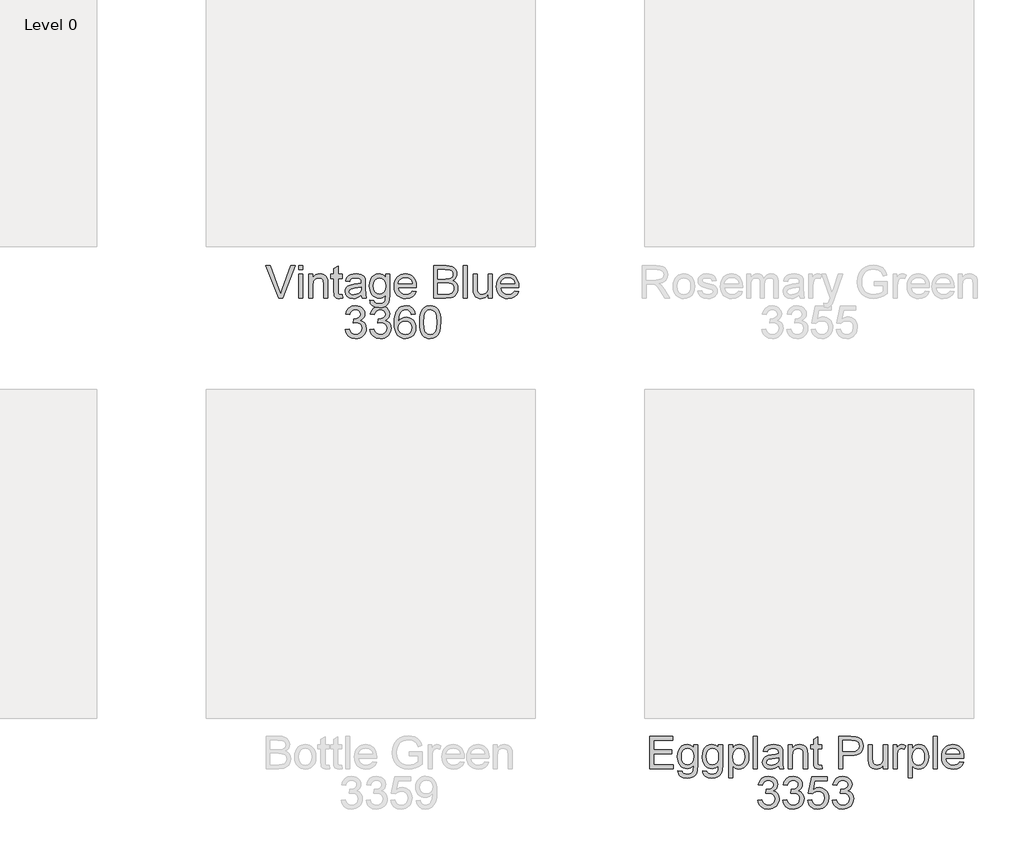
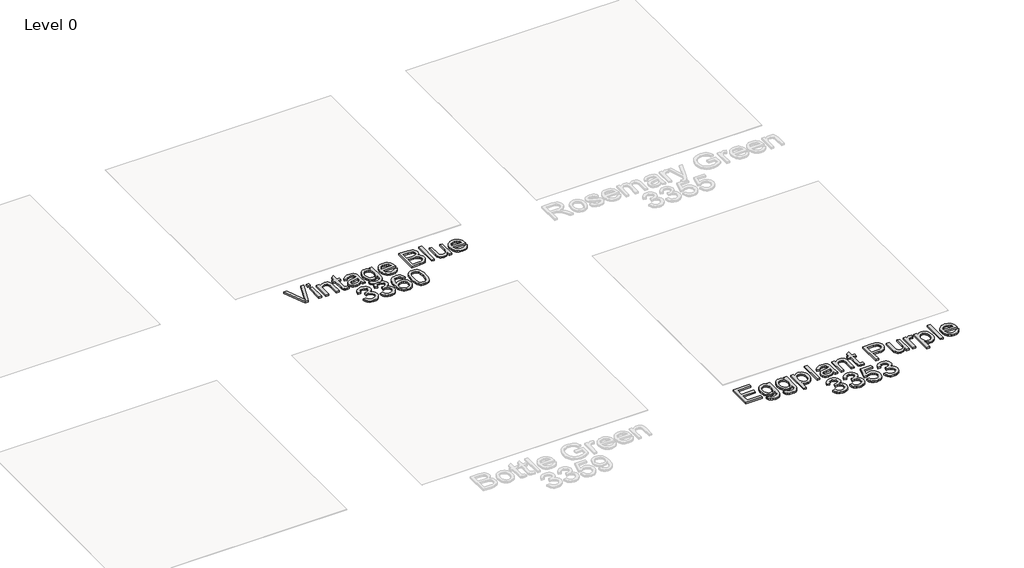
# One storey, part 4 of 6: 2 proxies.
"""IFC4 building model written with IfcOpenShell, lengths in millimetres."""

from ifc_helpers import new_model, si_unit, origin, origin_with_axes, place, context, project, spatial, polyline, outline, extrude, element, save

model = new_model("IFC4")

# Units and contexts
model_context = context("Model", 3, world=origin())
ifc_project = project(units=[si_unit("LENGTHUNIT", "METRE", prefix="MILLI")], contexts=[model_context])

# Site, building, storey
site = spatial("IfcSite", under=ifc_project)
building = spatial("IfcBuilding", under=site)
storey = spatial("IfcBuildingStorey", under=building, Name="Level 0", Elevation=0.0)

# Proxies
placement = place(None, origin())
element("IfcBuildingElementProxy", 1, Name="300mm Arial", ObjectType="300mm Arial", at=placement, inside=storey, context=model_context, shape_type="SweptSolid", body=[
    extrude(outline(polyline([(3208.7612736, -2137.1730179), (3091.2131967, -1841.7884025), (3130.7324275, -1841.7884025), (3209.4103121, -2054.6009025), (3225.3478121, -2102.5576332), (3241.068966, -2054.6009025), (3319.9631967, -1841.7884025), (3359.4824275, -1841.7884025), (3246.9103121, -2137.1730179), (3208.7612736, -2137.1730179)])), origin_with_axes(), (0.0, 0.0, 1.0), 20.0),
    extrude(outline(polyline([(3389.193966, -1878.7114794), (3389.193966, -1841.7884025), (3426.1170429, -1841.7884025), (3426.1170429, -1878.7114794), (3389.193966, -1878.7114794)])), origin_with_axes(), (0.0, 0.0, 1.0), 20.0),
    extrude(outline(polyline([(3389.193966, -2137.1730179), (3389.193966, -1920.2499409), (3426.1170429, -1920.2499409), (3426.1170429, -2137.1730179), (3389.193966, -2137.1730179)])), origin_with_axes(), (0.0, 0.0, 1.0), 20.0),
    extrude(outline(polyline([(3481.5016583, -2137.1730179), (3481.5016583, -1920.2499409), (3518.4247352, -1920.2499409), (3518.4247352, -1950.5384025), (3531.2522592, -1935.2679698), (3546.6579083, -1924.3605179), (3564.6416823, -1917.8160467), (3585.2035813, -1915.6345563), (3603.4037015, -1917.3923688), (3620.0713698, -1922.6658063), (3633.9716102, -1930.7968159), (3643.8694467, -1941.1273448), (3654.9391583, -1968.2787871), (3656.8862736, -2003.9759025), (3656.8862736, -2137.1730179), (3619.9631967, -2137.1730179), (3619.9631967, -2008.951864), (3615.708389, -1976.2835948), (3609.8219708, -1966.5570323), (3600.6723313, -1959.0119602), (3588.9445669, -1954.171215), (3575.3237736, -1952.5576332), (3553.6981727, -1956.1814313), (3535.2636775, -1967.0528255), (3527.8966402, -1975.9275251), (3522.6344708, -1988.0564313), (3518.4247352, -2022.076864), (3518.4247352, -2137.1730179), (3481.5016583, -2137.1730179)])), origin_with_axes(), (0.0, 0.0, 1.0), 20.0),
    extrude(outline(polyline([(3786.1170429, -2106.3797486), (3790.7324275, -2138.2547486), (3763.1122352, -2141.7884025), (3745.3898794, -2140.2559505), (3732.1747352, -2135.6585948), (3722.8357929, -2128.5732582), (3716.7420429, -2119.576864), (3713.3886775, -2104.1261429), (3712.270889, -2077.6778255), (3712.270889, -1957.1730179), (3684.5785813, -1957.1730179), (3684.5785813, -1920.2499409), (3712.270889, -1920.2499409), (3712.270889, -1867.5335948), (3749.193966, -1845.826864), (3749.193966, -1920.2499409), (3786.1170429, -1920.2499409), (3786.1170429, -1957.1730179), (3749.193966, -1957.1730179), (3749.193966, -2076.5960948), (3751.1410813, -2095.6345563), (3757.4511775, -2102.3773448), (3770.0353121, -2104.8653255), (3786.1170429, -2106.3797486)])), origin_with_axes(), (0.0, 0.0, 1.0), 20.0),
    extrude(outline(polyline([(3961.5016583, -2109.4807102), (3943.8604323, -2124.6069121), (3925.6963698, -2134.5047486), (3906.5948073, -2139.967489), (3886.1410813, -2141.7884025), (3855.2847111, -2137.4073929), (3832.5232929, -2124.264364), (3818.4878361, -2104.3064313), (3813.8093506, -2079.4807102), (3815.5761775, -2064.1742198), (3820.8766583, -2050.2739794), (3829.05274, -2038.3749409), (3839.4463698, -2029.0720563), (3865.2997352, -2016.9566717), (3897.2468506, -2011.4037871), (3934.9992544, -2005.5624409), (3961.2853121, -1998.7114794), (3961.5016583, -1990.4903255), (3958.959591, -1974.0119602), (3951.333389, -1963.2307102), (3934.2781006, -1955.2259025), (3910.5160813, -1952.5576332), (3888.520889, -1954.3334746), (3873.1603121, -1959.6609986), (3862.6855525, -1969.513763), (3855.3478121, -1984.8653255), (3818.4247352, -1980.2499409), (3824.83399, -1960.0576332), (3834.3982929, -1944.1922486), (3848.0100717, -1932.0588352), (3866.5617544, -1923.0624409), (3889.2510573, -1917.4915275), (3915.2756967, -1915.6345563), (3940.2366342, -1917.2751813), (3960.0232929, -1922.1970563), (3974.9421631, -1929.5978977), (3985.2997352, -1938.6754217), (3992.1687256, -1949.8983784), (3996.6218506, -1963.7355179), (3998.4247352, -1996.0432102), (3998.4247352, -2041.9807102), (4000.2997352, -2106.1273448), (4007.6555044, -2137.1730179), (3970.7324275, -2137.1730179), (3961.5016583, -2109.4807102)]), holes=[polyline([(3961.5016583, -2035.6345563), (3901.9343506, -2046.9566717), (3870.1675236, -2052.9422486), (3855.7805044, -2062.6778255), (3850.7324275, -2076.8845563), (3853.4818265, -2087.8641236), (3861.7300236, -2096.8605179), (3875.2967304, -2102.8641236), (3894.0016583, -2104.8653255), (3913.833389, -2102.6567919), (3931.3574275, -2096.0311909), (3945.5641583, -2086.2685707), (3955.443966, -2074.6489794), (3959.8249756, -2062.6778255), (3961.2853121, -2046.0912871), (3961.5016583, -2035.6345563)])]), origin_with_axes(), (0.0, 0.0, 1.0), 20.0),
    extrude(outline(polyline([(4039.9631967, -2155.6345563), (4076.8862736, -2160.2499409), (4080.9607929, -2171.7884025), (4088.8574275, -2179.7210948), (4104.380264, -2185.8869602), (4124.6987736, -2187.9422486), (4146.3694467, -2185.6165275), (4162.4872352, -2178.639364), (4173.6651198, -2167.4614794), (4180.5160813, -2152.5335948), (4183.0401198, -2109.4807102), (4170.7534611, -2121.5960948), (4157.0425236, -2130.2499409), (4141.9073073, -2135.4422486), (4125.3478121, -2137.1730179), (4105.1036715, -2135.1582943), (4087.2799035, -2129.1141236), (4071.876508, -2119.0405058), (4058.8934852, -2104.9374409), (4048.5922532, -2088.0173688), (4041.2342304, -2069.4927294), (4035.3478121, -2027.6297486), (4037.9890381, -1997.8190515), (4045.912716, -1970.4061909), (4058.8393986, -1947.1760227), (4076.489639, -1929.9134025), (4098.2594708, -1919.2042679), (4123.5449275, -1915.6345563), (4140.8120549, -1917.6537871), (4156.4836294, -1923.7114794), (4170.5596511, -1933.8076332), (4183.0401198, -1947.9422486), (4183.0401198, -1920.2499409), (4219.9631967, -1920.2499409), (4219.9631967, -2107.5335948), (4217.4391583, -2150.7757823), (4209.8670429, -2179.2523448), (4196.8231727, -2198.1375611), (4177.8838698, -2212.6057102), (4153.4637977, -2221.8004217), (4123.9776198, -2224.8653255), (4089.6236535, -2220.5474169), (4062.5713698, -2207.5936909), (4052.3828181, -2197.869382), (4045.2186054, -2185.96809), (4041.0787316, -2171.8898147), (4039.9631967, -2155.6345563)]), holes=[polyline([(4072.270889, -2025.1057102), (4076.2101919, -2058.9728977), (4088.0281006, -2082.2571525), (4105.7955285, -2095.7517438), (4127.583389, -2100.2499409), (4149.20899, -2095.7787871), (4167.0665621, -2082.3653255), (4179.0467304, -2059.3785467), (4183.0401198, -2026.1874409), (4178.9295429, -1994.1772246), (4166.5978121, -1971.1273448), (4148.4788217, -1957.2000611), (4127.006466, -1952.5576332), (4105.9217304, -1957.1279457), (4088.2444467, -1970.8388832), (4076.2642785, -1993.546215), (4072.270889, -2025.1057102)])]), origin_with_axes(), (0.0, 0.0, 1.0), 20.0),
    extrude(outline(polyline([(4427.2228121, -2072.5576332), (4463.4247352, -2077.1730179), (4450.380865, -2104.4506621), (4429.5665621, -2124.8412871), (4401.4505765, -2137.5516236), (4366.5016583, -2141.7884025), (4343.591502, -2139.9607282), (4323.178341, -2134.4777054), (4305.2621751, -2125.339334), (4289.8430044, -2112.545614), (4277.4436655, -2096.4526152), (4268.5869948, -2077.4164073), (4263.2729924, -2055.4369902), (4261.5016583, -2030.514364), (4263.2910212, -2004.7466356), (4268.6591102, -1982.0347967), (4277.6059251, -1962.3788472), (4290.131466, -1945.7787871), (4305.5100717, -1932.5906861), (4323.0160813, -1923.170614), (4342.6494948, -1917.5185707), (4364.4103121, -1915.6345563), (4385.470258, -1917.5140635), (4404.5154804, -1923.1525852), (4421.5459792, -1932.5501212), (4436.5617544, -1945.7066717), (4448.8191162, -1962.2706741), (4457.5743746, -1981.8905659), (4462.8275297, -2004.5663472), (4464.5785813, -2030.2980179), (4464.3622352, -2040.2499409), (4298.4247352, -2040.2499409), (4304.8159611, -2067.8881621), (4319.662716, -2088.2066717), (4341.0899996, -2100.7006621), (4367.2228121, -2104.8653255), (4386.8742544, -2102.936239), (4403.4247352, -2097.1489794), (4416.8742544, -2087.1429698), (4427.2228121, -2072.5576332)]), holes=[polyline([(4298.4247352, -2003.326864), (4427.6555044, -2003.326864), (4422.661514, -1983.8196525), (4412.8718506, -1969.8653255), (4391.3454083, -1956.8845563), (4364.2660813, -1952.5576332), (4339.3772592, -1956.0101573), (4318.7973313, -1966.3677294), (4304.4914419, -1982.5125611), (4298.4247352, -2003.326864)])]), origin_with_axes(), (0.0, 0.0, 1.0), 20.0),
    extrude(outline(polyline([(4621.5016583, -2137.1730179), (4621.5016583, -1841.7884025), (4734.2180044, -1841.7884025), (4765.2186054, -1843.9608784), (4789.4223313, -1850.4783063), (4807.974014, -1861.5029457), (4822.0184852, -1877.1970563), (4830.8616342, -1895.6585948), (4833.8093506, -1914.9855179), (4831.3303842, -1932.7709746), (4823.8934852, -1949.4927294), (4811.4445669, -1964.123138), (4793.9295429, -1975.6345563), (4814.8520188, -1986.5600371), (4830.3117544, -2003.1826332), (4839.8580285, -2024.4025852), (4843.0401198, -2049.1201332), (4840.8676438, -2069.71809), (4834.350216, -2088.8196525), (4824.6236535, -2105.0636429), (4812.8237736, -2117.0888832), (4798.3736535, -2125.7968159), (4780.6963698, -2132.0888832), (4733.3526198, -2137.1730179), (4621.5016583, -2137.1730179)]), holes=[polyline([(4658.4247352, -1961.7884025), (4725.8526198, -1961.7884025), (4765.2276198, -1958.6153255), (4779.0106727, -1953.1435707), (4788.9175236, -1944.9494602), (4794.8940861, -1934.1591957), (4796.8862736, -1920.8989794), (4795.0293025, -1908.0263832), (4789.458389, -1896.8124409), (4780.4259371, -1888.0594361), (4768.1843506, -1882.5696525), (4720.7324275, -1878.7114794), (4658.4247352, -1878.7114794), (4658.4247352, -1961.7884025)]), polyline([(4658.4247352, -2100.2499409), (4734.145889, -2100.2499409), (4761.5497352, -2098.8076332), (4784.7348313, -2090.7667679), (4800.0954083, -2074.3605179), (4804.6116342, -2062.7679698), (4806.1170429, -2049.4807102), (4804.350216, -2034.0480179), (4799.0497352, -2020.7787871), (4789.7919227, -2010.4031861), (4776.1531006, -2003.6513832), (4756.8351919, -1999.9464554), (4730.5401198, -1998.7114794), (4658.4247352, -1998.7114794), (4658.4247352, -2100.2499409)])]), origin_with_axes(), (0.0, 0.0, 1.0), 20.0),
    extrude(outline(polyline([(4889.193966, -2137.1730179), (4889.193966, -1841.7884025), (4926.1170429, -1841.7884025), (4926.1170429, -2137.1730179), (4889.193966, -2137.1730179)])), origin_with_axes(), (0.0, 0.0, 1.0), 20.0),
    extrude(outline(polyline([(5119.9631967, -2137.1730179), (5119.9631967, -2099.889364), (5106.6038217, -2118.2201933), (5091.0449275, -2131.3136429), (5073.286514, -2139.1697126), (5053.3285813, -2141.7884025), (5035.3448073, -2139.9494602), (5018.6050236, -2134.4326332), (5004.5605525, -2126.139364), (4994.662716, -2115.9710948), (4983.6651198, -2088.7835948), (4981.5016583, -2054.4566717), (4981.5016583, -1920.2499409), (5018.4247352, -1920.2499409), (5018.4247352, -2037.076864), (5020.6603121, -2074.7210948), (5026.0419227, -2087.2781861), (5035.2636775, -2096.8244602), (5047.7125958, -2102.8551092), (5062.7756967, -2104.8653255), (5078.7041823, -2102.8100371), (5093.6050236, -2096.6441717), (5105.8916823, -2086.935638), (5113.9776198, -2074.2523448), (5118.4668025, -2056.8815515), (5119.9631967, -2033.1105179), (5119.9631967, -1920.2499409), (5156.8862736, -1920.2499409), (5156.8862736, -2137.1730179), (5119.9631967, -2137.1730179)])), origin_with_axes(), (0.0, 0.0, 1.0), 20.0),
    extrude(outline(polyline([(5359.5305044, -2072.5576332), (5395.7324275, -2077.1730179), (5382.6885573, -2104.4506621), (5361.8742544, -2124.8412871), (5333.7582688, -2137.5516236), (5298.8093506, -2141.7884025), (5275.8991943, -2139.9607282), (5255.4860333, -2134.4777054), (5237.5698674, -2125.339334), (5222.1506967, -2112.545614), (5209.7513578, -2096.4526152), (5200.8946871, -2077.4164073), (5195.5806847, -2055.4369902), (5193.8093506, -2030.514364), (5195.5987136, -2004.7466356), (5200.9668025, -1982.0347967), (5209.9136174, -1962.3788472), (5222.4391583, -1945.7787871), (5237.817764, -1932.5906861), (5255.3237736, -1923.170614), (5274.9571871, -1917.5185707), (5296.7180044, -1915.6345563), (5317.7779503, -1917.5140635), (5336.8231727, -1923.1525852), (5353.8536715, -1932.5501212), (5368.8694467, -1945.7066717), (5381.1268085, -1962.2706741), (5389.8820669, -1981.8905659), (5395.135222, -2004.5663472), (5396.8862736, -2030.2980179), (5396.6699275, -2040.2499409), (5230.7324275, -2040.2499409), (5237.1236535, -2067.8881621), (5251.9704083, -2088.2066717), (5273.3976919, -2100.7006621), (5299.5305044, -2104.8653255), (5319.1819467, -2102.936239), (5335.7324275, -2097.1489794), (5349.1819467, -2087.1429698), (5359.5305044, -2072.5576332)]), holes=[polyline([(5230.7324275, -2003.326864), (5359.9631967, -2003.326864), (5354.9692063, -1983.8196525), (5345.1795429, -1969.8653255), (5323.6531006, -1956.8845563), (5296.5737736, -1952.5576332), (5271.6849515, -1956.0101573), (5251.1050236, -1966.3677294), (5236.7991342, -1982.5125611), (5230.7324275, -2003.326864)])]), origin_with_axes(), (0.0, 0.0, 1.0), 20.0),
    extrude(outline(polyline([(3813.8093506, -2423.326864), (3850.7324275, -2418.7114794), (3858.9986535, -2441.9146044), (3871.1050236, -2457.5816717), (3887.64649, -2466.5059505), (3909.2180044, -2469.4807102), (3934.5305044, -2465.3881621), (3954.0737736, -2453.1105179), (3966.567764, -2434.7932102), (3970.7324275, -2412.5816717), (3966.6038217, -2391.4969361), (3954.2180044, -2374.3965755), (3935.4680044, -2363.0654457), (3912.2468506, -2359.2884025), (3886.3574275, -2363.326864), (3890.4680044, -2326.4037871), (3896.381466, -2326.8364794), (3918.5028602, -2324.186239), (3938.2805044, -2316.2355179), (3952.2348313, -2302.7859986), (3956.8862736, -2283.639364), (3953.5148794, -2267.6928496), (3943.4006967, -2254.7571525), (3927.9680044, -2246.1844361), (3908.6410813, -2243.326864), (3889.2781006, -2246.2114794), (3873.4487736, -2254.8653255), (3861.8922833, -2269.2884025), (3855.3478121, -2289.4807102), (3818.4247352, -2284.8653255), (3829.2961294, -2251.7102775), (3848.6410813, -2226.9566717), (3875.1074275, -2211.5420082), (3907.3430044, -2206.4037871), (3930.5551438, -2208.93684), (3951.8742544, -2216.5359986), (3969.849014, -2228.5251813), (3983.0281006, -2244.2283063), (3991.1140381, -2262.3202534), (3993.8093506, -2281.4759025), (3991.2492544, -2299.3244602), (3983.568966, -2315.514364), (3970.8766583, -2329.3064313), (3953.2805044, -2339.9614794), (3976.3934852, -2349.3004217), (3993.520889, -2365.201864), (4004.1218506, -2386.8004217), (4007.6555044, -2413.2307102), (4005.8886775, -2431.9626813), (4000.5881967, -2449.2162871), (3991.7540621, -2464.9915275), (3979.3862736, -2479.2884025), (3964.3186655, -2491.1513832), (3947.3850717, -2499.6249409), (3928.5854924, -2504.7090755), (3907.9199275, -2506.4037871), (3872.2228121, -2500.6165275), (3856.8622352, -2493.3824529), (3843.1603121, -2483.2547486), (3831.6714299, -2470.8283664), (3822.9499756, -2456.6982582), (3813.8093506, -2423.326864)])), origin_with_axes(), (0.0, 0.0, 1.0), 20.0),
    extrude(outline(polyline([(4039.9631967, -2423.326864), (4076.8862736, -2418.7114794), (4085.1524996, -2441.9146044), (4097.2588698, -2457.5816717), (4113.8003361, -2466.5059505), (4135.3718506, -2469.4807102), (4160.6843506, -2465.3881621), (4180.2276198, -2453.1105179), (4192.7216102, -2434.7932102), (4196.8862736, -2412.5816717), (4192.7576679, -2391.4969361), (4180.3718506, -2374.3965755), (4161.6218506, -2363.0654457), (4138.4006967, -2359.2884025), (4112.5112736, -2363.326864), (4116.6218506, -2326.4037871), (4122.5353121, -2326.8364794), (4144.6567063, -2324.186239), (4164.4343506, -2316.2355179), (4178.3886775, -2302.7859986), (4183.0401198, -2283.639364), (4179.6687256, -2267.6928496), (4169.5545429, -2254.7571525), (4154.1218506, -2246.1844361), (4134.7949275, -2243.326864), (4115.4319467, -2246.2114794), (4099.6026198, -2254.8653255), (4088.0461294, -2269.2884025), (4081.5016583, -2289.4807102), (4044.5785813, -2284.8653255), (4055.4499756, -2251.7102775), (4074.7949275, -2226.9566717), (4101.2612736, -2211.5420082), (4133.4968506, -2206.4037871), (4156.70899, -2208.93684), (4178.0281006, -2216.5359986), (4196.0028602, -2228.5251813), (4209.1819467, -2244.2283063), (4217.2678842, -2262.3202534), (4219.9631967, -2281.4759025), (4217.4031006, -2299.3244602), (4209.7228121, -2315.514364), (4197.0305044, -2329.3064313), (4179.4343506, -2339.9614794), (4202.5473313, -2349.3004217), (4219.6747352, -2365.201864), (4230.2756967, -2386.8004217), (4233.8093506, -2413.2307102), (4232.0425236, -2431.9626813), (4226.7420429, -2449.2162871), (4217.9079083, -2464.9915275), (4205.5401198, -2479.2884025), (4190.4725116, -2491.1513832), (4173.5389179, -2499.6249409), (4154.7393386, -2504.7090755), (4134.0737736, -2506.4037871), (4098.3766583, -2500.6165275), (4083.0160813, -2493.3824529), (4069.3141583, -2483.2547486), (4057.8252761, -2470.8283664), (4049.1038217, -2456.6982582), (4039.9631967, -2423.326864)])), origin_with_axes(), (0.0, 0.0, 1.0), 20.0),
    extrude(outline(polyline([(4455.3478121, -2284.8653255), (4418.4247352, -2289.4807102), (4412.475216, -2271.1814313), (4404.4343506, -2258.6874409), (4387.6855525, -2247.1670082), (4367.4391583, -2243.326864), (4350.2756967, -2245.5624409), (4334.1218506, -2252.2691717), (4320.2486535, -2266.3947727), (4308.9175236, -2285.8388832), (4301.2642785, -2313.341888), (4298.4247352, -2351.6441717), (4313.2354323, -2334.3635227), (4330.9848313, -2322.1850371), (4350.6813458, -2314.9644842), (4371.333389, -2312.5576332), (4389.0737736, -2314.2027654), (4405.443966, -2319.1381621), (4420.443966, -2327.3638231), (4434.0737736, -2338.8797486), (4445.4003962, -2353.0008424), (4453.490841, -2369.0420082), (4458.3451078, -2387.0032462), (4459.9631967, -2406.8845563), (4456.9163217, -2433.3238592), (4447.7756967, -2457.8340755), (4433.2985333, -2478.6213352), (4414.2420429, -2493.8917679), (4391.4716102, -2503.2757823), (4365.8526198, -2506.4037871), (4343.8416523, -2504.3304698), (4323.9625958, -2498.1105179), (4306.2154503, -2487.7439313), (4290.600216, -2473.2307102), (4277.869597, -2453.9578736), (4268.7762977, -2429.3124409), (4263.3203181, -2399.2944121), (4261.5016583, -2363.9037871), (4263.520889, -2324.2268039), (4269.5785813, -2290.3641236), (4279.6747352, -2262.3157462), (4293.8093506, -2240.0816717), (4309.1293626, -2225.3475972), (4326.8922833, -2214.8232582), (4347.0981126, -2208.5086549), (4369.7468506, -2206.4037871), (4402.1446871, -2211.6141236), (4428.0881967, -2227.2451332), (4446.2612736, -2252.0708544), (4455.3478121, -2284.8653255)]), holes=[polyline([(4298.4247352, -2406.3076332), (4300.5611535, -2422.6688111), (4306.9704083, -2438.2908063), (4316.9223313, -2451.7222967), (4329.6867544, -2461.5119602), (4345.0924035, -2467.4885227), (4362.9680044, -2469.4807102), (4387.33399, -2465.3521044), (4406.489639, -2452.9662871), (4418.9024996, -2433.4951332), (4423.0401198, -2408.1105179), (4418.9565861, -2383.7445323), (4406.7059852, -2365.1658063), (4387.2258169, -2353.4019842), (4361.4535813, -2349.4807102), (4337.1236535, -2353.4019842), (4316.7781006, -2365.1658063), (4303.0130765, -2383.2938111), (4298.4247352, -2406.3076332)])]), origin_with_axes(), (0.0, 0.0, 1.0), 20.0),
    extrude(outline(polyline([(4492.270889, -2356.4759025), (4494.9842304, -2309.1952534), (4503.1242544, -2271.4879217), (4516.6098313, -2242.7769842), (4535.3598313, -2222.4855179), (4559.5094708, -2210.4242198), (4589.193966, -2206.4037871), (4611.9463698, -2208.7835948), (4632.318966, -2215.9230179), (4649.3562256, -2227.5426092), (4662.1026198, -2243.3629217), (4671.7300236, -2263.248739), (4679.4103121, -2287.0648448), (4684.4403602, -2317.3082342), (4686.1170429, -2356.4759025), (4683.4307448, -2403.4861188), (4675.3718506, -2441.1033063), (4661.9674035, -2469.8412871), (4643.2444467, -2490.2138832), (4619.0407208, -2502.3563111), (4589.193966, -2506.4037871), (4568.8574275, -2504.6459746), (4550.8285813, -2499.3725371), (4535.1074275, -2490.5834746), (4521.693966, -2478.2787871), (4508.8213698, -2456.0356981), (4499.6266583, -2428.3208544), (4494.1098313, -2395.1342558), (4492.270889, -2356.4759025)]), holes=[polyline([(4529.193966, -2356.4037871), (4533.520889, -2414.483715), (4538.9295429, -2434.3492498), (4546.5016583, -2448.0984986), (4565.8285813, -2464.1351573), (4589.193966, -2469.4807102), (4612.5593506, -2464.1171284), (4631.8862736, -2448.0263832), (4639.458389, -2434.2545984), (4644.8670429, -2414.3935707), (4649.193966, -2356.4037871), (4645.0112736, -2299.6309505), (4639.7829083, -2279.8307703), (4632.4631967, -2265.7547486), (4613.1723313, -2248.9338352), (4588.7612736, -2243.326864), (4565.6482929, -2248.2667679), (4547.0785813, -2263.0864794), (4539.2540621, -2278.4109986), (4533.6651198, -2299.0720563), (4529.193966, -2356.4037871)])]), origin_with_axes(), (0.0, 0.0, 1.0), 20.0),
])
element("IfcBuildingElementProxy", 2, Name="300mm Arial", ObjectType="300mm Arial", at=placement, inside=storey, context=model_context, shape_type="SweptSolid", body=[
    extrude(outline(polyline([(6590.6052398, -6431.0059242), (6590.6052398, -6135.6213089), (6802.9129321, -6135.6213089), (6802.9129321, -6172.5443858), (6627.5283167, -6172.5443858), (6627.5283167, -6260.2366935), (6793.6821629, -6260.2366935), (6793.6821629, -6297.1597704), (6627.5283167, -6297.1597704), (6627.5283167, -6394.0828473), (6807.5283167, -6394.0828473), (6807.5283167, -6431.0059242), (6590.6052398, -6431.0059242)])), origin_with_axes(), (0.0, 0.0, 1.0), 20.0),
    extrude(outline(polyline([(6849.0667782, -6449.4674627), (6885.9898552, -6454.0828473), (6890.0643744, -6465.6213089), (6897.961009, -6473.5540012), (6913.4838456, -6479.7198666), (6933.8023552, -6481.775155), (6955.4730282, -6479.4494339), (6971.5908167, -6472.4722704), (6982.7687013, -6461.2943858), (6989.6196629, -6446.3665012), (6992.1437013, -6403.3136166), (6979.8570427, -6415.4290012), (6966.1461052, -6424.0828473), (6951.0108888, -6429.275155), (6934.4513936, -6431.0059242), (6914.207253, -6428.9912007), (6896.383485, -6422.94703), (6880.9800895, -6412.8734122), (6867.9970667, -6398.7703473), (6857.6958347, -6381.8502752), (6850.3378119, -6363.3256358), (6844.4513936, -6321.462655), (6847.0926196, -6291.6519579), (6855.0162975, -6264.2390973), (6867.9429802, -6241.0089291), (6885.5932206, -6223.7463089), (6907.3630523, -6213.0371742), (6932.648509, -6209.4674627), (6949.9156364, -6211.4866935), (6965.5872109, -6217.5443858), (6979.6632326, -6227.6405396), (6992.1437013, -6241.775155), (6992.1437013, -6214.0828473), (7029.0667782, -6214.0828473), (7029.0667782, -6401.3665012), (7026.5427398, -6444.6086887), (7018.9706244, -6473.0852512), (7005.9267542, -6491.9704675), (6986.9874513, -6506.4386166), (6962.5673792, -6515.6333281), (6933.0812013, -6518.6982319), (6898.727235, -6514.3803233), (6871.6749513, -6501.4265973), (6861.4863996, -6491.7022884), (6854.3221869, -6479.8009964), (6850.1823131, -6465.7227211), (6849.0667782, -6449.4674627)]), holes=[polyline([(6881.3744706, -6318.9386166), (6885.3137734, -6352.8058041), (6897.1316821, -6376.0900589), (6914.89911, -6389.5846502), (6936.6869706, -6394.0828473), (6958.3125715, -6389.6116935), (6976.1701436, -6376.1982319), (6988.1503119, -6353.2114531), (6992.1437013, -6320.0203473), (6988.0331244, -6288.010131), (6975.7013936, -6264.9602512), (6957.5824032, -6251.0329675), (6936.1100475, -6246.3905396), (6915.0253119, -6250.9608521), (6897.3480282, -6264.6717896), (6885.36786, -6287.3791214), (6881.3744706, -6318.9386166)])]), origin_with_axes(), (0.0, 0.0, 1.0), 20.0),
    extrude(outline(polyline([(7075.2206244, -6449.4674627), (7112.1437013, -6454.0828473), (7116.2182206, -6465.6213089), (7124.1148552, -6473.5540012), (7139.6376917, -6479.7198666), (7159.9562013, -6481.775155), (7181.6268744, -6479.4494339), (7197.7446629, -6472.4722704), (7208.9225475, -6461.2943858), (7215.773509, -6446.3665012), (7218.2975475, -6403.3136166), (7206.0108888, -6415.4290012), (7192.2999513, -6424.0828473), (7177.164735, -6429.275155), (7160.6052398, -6431.0059242), (7140.3610992, -6428.9912007), (7122.5373311, -6422.94703), (7107.1339357, -6412.8734122), (7094.1509129, -6398.7703473), (7083.8496809, -6381.8502752), (7076.4916581, -6363.3256358), (7070.6052398, -6321.462655), (7073.2464657, -6291.6519579), (7081.1701436, -6264.2390973), (7094.0968263, -6241.0089291), (7111.7470667, -6223.7463089), (7133.5168984, -6213.0371742), (7158.8023552, -6209.4674627), (7176.0694826, -6211.4866935), (7191.7410571, -6217.5443858), (7205.8170787, -6227.6405396), (7218.2975475, -6241.775155), (7218.2975475, -6214.0828473), (7255.2206244, -6214.0828473), (7255.2206244, -6401.3665012), (7252.6965859, -6444.6086887), (7245.1244706, -6473.0852512), (7232.0806004, -6491.9704675), (7213.1412975, -6506.4386166), (7188.7212254, -6515.6333281), (7159.2350475, -6518.6982319), (7124.8810811, -6514.3803233), (7097.8287975, -6501.4265973), (7087.6402458, -6491.7022884), (7080.4760331, -6479.8009964), (7076.3361593, -6465.7227211), (7075.2206244, -6449.4674627)]), holes=[polyline([(7107.5283167, -6318.9386166), (7111.4676196, -6352.8058041), (7123.2855282, -6376.0900589), (7141.0529561, -6389.5846502), (7162.8408167, -6394.0828473), (7184.4664177, -6389.6116935), (7202.3239898, -6376.1982319), (7214.3041581, -6353.2114531), (7218.2975475, -6320.0203473), (7214.1869706, -6288.010131), (7201.8552398, -6264.9602512), (7183.7362494, -6251.0329675), (7162.2638936, -6246.3905396), (7141.1791581, -6250.9608521), (7123.5018744, -6264.6717896), (7111.5217061, -6287.3791214), (7107.5283167, -6318.9386166)])]), origin_with_axes(), (0.0, 0.0, 1.0), 20.0),
    extrude(outline(polyline([(7310.6052398, -6514.0828473), (7310.6052398, -6214.0828473), (7347.5283167, -6214.0828473), (7347.5283167, -6250.2847704), (7359.5715859, -6232.4271983), (7373.0571629, -6219.6717896), (7388.7783167, -6212.0185444), (7407.5283167, -6209.4674627), (7432.4982686, -6213.0371742), (7454.3312013, -6223.7463089), (7472.1076436, -6240.9458281), (7484.9081244, -6263.9866935), (7492.6424994, -6291.1922223), (7495.2206244, -6320.8857319), (7492.3089657, -6352.463256), (7483.5739898, -6380.7054435), (7469.2951436, -6404.1790012), (7449.7518744, -6421.4506358), (7426.9904561, -6432.0786406), (7403.0571629, -6435.6213089), (7386.0830042, -6433.2505156), (7370.929759, -6426.1381358), (7357.9580042, -6415.4019579), (7347.5283167, -6402.1597704), (7347.5283167, -6514.0828473), (7310.6052398, -6514.0828473)]), holes=[polyline([(7347.5283167, -6324.275155), (7351.5217061, -6357.3761166), (7363.5018744, -6380.525155), (7381.1791581, -6394.1549627), (7402.2638936, -6398.6982319), (7423.6911773, -6393.9927031), (7441.8191821, -6379.8761166), (7454.1779561, -6355.8797223), (7458.2975475, -6321.5347704), (7454.2771148, -6288.6140973), (7442.2158167, -6265.1405396), (7424.5655763, -6251.0780396), (7403.7783167, -6246.3905396), (7382.9099273, -6251.3755156), (7364.5836052, -6266.3304435), (7351.7921388, -6290.7865733), (7347.5283167, -6324.275155)])]), origin_with_axes(), (0.0, 0.0, 1.0), 20.0),
    extrude(outline(polyline([(7536.7590859, -6431.0059242), (7536.7590859, -6135.6213089), (7573.6821629, -6135.6213089), (7573.6821629, -6431.0059242), (7536.7590859, -6431.0059242)])), origin_with_axes(), (0.0, 0.0, 1.0), 20.0),
    extrude(outline(polyline([(7767.5283167, -6403.3136166), (7749.8870907, -6418.4398185), (7731.7230282, -6428.337655), (7712.6214657, -6433.8003954), (7692.1677398, -6435.6213089), (7661.3113696, -6431.2402992), (7638.5499513, -6418.0972704), (7624.5144946, -6398.1393377), (7619.836009, -6373.3136166), (7621.6028359, -6358.0071262), (7626.9033167, -6344.1068858), (7635.0793984, -6332.2078473), (7645.4730282, -6322.9049627), (7671.3263936, -6310.7895781), (7703.273509, -6305.2366935), (7741.0259129, -6299.3953473), (7767.3119706, -6292.5443858), (7767.5283167, -6284.3232319), (7764.9862494, -6267.8448666), (7757.3600475, -6257.0636166), (7740.304759, -6249.0588089), (7716.5427398, -6246.3905396), (7694.5475475, -6248.166381), (7679.1869706, -6253.493905), (7668.7122109, -6263.3466694), (7661.3744706, -6278.6982319), (7624.4513936, -6274.0828473), (7630.8606484, -6253.8905396), (7640.4249513, -6238.025155), (7654.0367302, -6225.8917416), (7672.5884129, -6216.8953473), (7695.2777157, -6211.3244339), (7721.3023552, -6209.4674627), (7746.2632927, -6211.1080877), (7766.0499513, -6216.0299627), (7780.9688215, -6223.4308041), (7791.3263936, -6232.5083281), (7798.195384, -6243.7312848), (7802.648509, -6257.5684242), (7804.4513936, -6289.8761166), (7804.4513936, -6335.8136166), (7806.3263936, -6399.9602512), (7813.6821629, -6431.0059242), (7776.7590859, -6431.0059242), (7767.5283167, -6403.3136166)]), holes=[polyline([(7767.5283167, -6329.4674627), (7707.961009, -6340.7895781), (7676.1941821, -6346.775155), (7661.8071629, -6356.5107319), (7656.7590859, -6370.7174627), (7659.508485, -6381.69703), (7667.7566821, -6390.6934242), (7681.3233888, -6396.69703), (7700.0283167, -6398.6982319), (7719.8600475, -6396.4896983), (7737.3840859, -6389.8640973), (7751.5908167, -6380.1014771), (7761.4706244, -6368.4818858), (7765.851634, -6356.5107319), (7767.3119706, -6339.9241935), (7767.5283167, -6329.4674627)])]), origin_with_axes(), (0.0, 0.0, 1.0), 20.0),
    extrude(outline(polyline([(7855.2206244, -6431.0059242), (7855.2206244, -6214.0828473), (7892.1437013, -6214.0828473), (7892.1437013, -6244.3713089), (7904.9712254, -6229.1008762), (7920.3768744, -6218.1934242), (7938.3606484, -6211.6489531), (7958.9225475, -6209.4674627), (7977.1226677, -6211.2252752), (7993.7903359, -6216.4987127), (8007.6905763, -6224.6297223), (8017.5884129, -6234.9602512), (8028.6581244, -6262.1116935), (8030.6052398, -6297.8088089), (8030.6052398, -6431.0059242), (7993.6821629, -6431.0059242), (7993.6821629, -6302.7847704), (7989.4273552, -6270.1165012), (7983.5409369, -6260.3899387), (7974.3912975, -6252.8448666), (7962.6635331, -6248.0041214), (7949.0427398, -6246.3905396), (7927.4171388, -6250.0143377), (7908.9826436, -6260.8857319), (7901.6156064, -6269.7604315), (7896.3534369, -6281.8893377), (7892.1437013, -6315.9097704), (7892.1437013, -6431.0059242), (7855.2206244, -6431.0059242)])), origin_with_axes(), (0.0, 0.0, 1.0), 20.0),
    extrude(outline(polyline([(8159.836009, -6400.212655), (8164.4513936, -6432.087655), (8136.8312013, -6435.6213089), (8119.1088456, -6434.0888569), (8105.8937013, -6429.4915012), (8096.554759, -6422.4061646), (8090.461009, -6413.4097704), (8087.1076436, -6397.9590492), (8085.9898552, -6371.5107319), (8085.9898552, -6251.0059242), (8058.2975475, -6251.0059242), (8058.2975475, -6214.0828473), (8085.9898552, -6214.0828473), (8085.9898552, -6161.3665012), (8122.9129321, -6139.6597704), (8122.9129321, -6214.0828473), (8159.836009, -6214.0828473), (8159.836009, -6251.0059242), (8122.9129321, -6251.0059242), (8122.9129321, -6370.4290012), (8124.8600475, -6389.4674627), (8131.1701436, -6396.2102512), (8143.7542782, -6398.6982319), (8159.836009, -6400.212655)])), origin_with_axes(), (0.0, 0.0, 1.0), 20.0),
    extrude(outline(polyline([(8316.7590859, -6431.0059242), (8316.7590859, -6135.6213089), (8426.2302398, -6135.6213089), (8470.3648552, -6138.4338089), (8490.0433407, -6143.6892175), (8506.242259, -6152.243905), (8519.2861292, -6164.4854916), (8529.4994706, -6180.8015973), (8536.0980282, -6200.0473906), (8538.2975475, -6221.0780396), (8532.3570427, -6255.8917416), (8524.9314117, -6271.1216093), (8514.5355282, -6284.900155), (8500.2634429, -6296.3214291), (8481.2092061, -6304.4794819), (8457.3728179, -6309.3743137), (8428.7542782, -6311.0059242), (8353.6821629, -6311.0059242), (8353.6821629, -6431.0059242), (8316.7590859, -6431.0059242)]), holes=[polyline([(8353.6821629, -6274.0828473), (8430.9177398, -6274.0828473), (8463.6581244, -6270.6934242), (8485.2927398, -6260.525155), (8497.3540379, -6244.2090492), (8501.3744706, -6222.3761166), (8499.0036773, -6205.7895781), (8491.8912975, -6191.7991935), (8480.9207446, -6181.2703473), (8466.9754321, -6175.0684242), (8430.0523552, -6172.5443858), (8353.6821629, -6172.5443858), (8353.6821629, -6274.0828473)])]), origin_with_axes(), (0.0, 0.0, 1.0), 20.0),
    extrude(outline(polyline([(8722.9129321, -6431.0059242), (8722.9129321, -6393.7222704), (8709.5535571, -6412.0530997), (8693.9946629, -6425.1465492), (8676.2362494, -6433.002619), (8656.2783167, -6435.6213089), (8638.2945427, -6433.7823666), (8621.554759, -6428.2655396), (8607.5102879, -6419.9722704), (8597.6124513, -6409.8040012), (8586.6148552, -6382.6165012), (8584.4513936, -6348.2895781), (8584.4513936, -6214.0828473), (8621.3744706, -6214.0828473), (8621.3744706, -6330.9097704), (8623.6100475, -6368.5540012), (8628.9916581, -6381.1110925), (8638.2134129, -6390.6573666), (8650.6623311, -6396.6880156), (8665.7254321, -6398.6982319), (8681.6539177, -6396.6429435), (8696.554759, -6390.4770781), (8708.8414177, -6380.7685444), (8716.9273552, -6368.0852512), (8721.4165379, -6350.7144579), (8722.9129321, -6326.9434242), (8722.9129321, -6214.0828473), (8759.836009, -6214.0828473), (8759.836009, -6431.0059242), (8722.9129321, -6431.0059242)])), origin_with_axes(), (0.0, 0.0, 1.0), 20.0),
    extrude(outline(polyline([(8810.6052398, -6431.0059242), (8810.6052398, -6214.0828473), (8842.9129321, -6214.0828473), (8842.9129321, -6246.1741935), (8854.8480282, -6227.5684242), (8865.8456244, -6216.6068858), (8876.8792782, -6211.2523185), (8888.9225475, -6209.4674627), (8907.3119706, -6212.3160204), (8925.9898552, -6220.8616935), (8913.6581244, -6253.962655), (8900.6773552, -6248.2835685), (8887.6965859, -6246.3905396), (8876.6719465, -6248.2114531), (8866.8191821, -6253.6741935), (8858.8594465, -6262.3640973), (8853.5138936, -6273.8665012), (8849.0247109, -6294.4915012), (8847.5283167, -6316.9915012), (8847.5283167, -6431.0059242), (8810.6052398, -6431.0059242)])), origin_with_axes(), (0.0, 0.0, 1.0), 20.0),
    extrude(outline(polyline([(8949.0667782, -6514.0828473), (8949.0667782, -6214.0828473), (8985.9898552, -6214.0828473), (8985.9898552, -6250.2847704), (8998.0331244, -6232.4271983), (9011.5187013, -6219.6717896), (9027.2398552, -6212.0185444), (9045.9898552, -6209.4674627), (9070.9598071, -6213.0371742), (9092.7927398, -6223.7463089), (9110.5691821, -6240.9458281), (9123.3696629, -6263.9866935), (9131.1040379, -6291.1922223), (9133.6821629, -6320.8857319), (9130.7705042, -6352.463256), (9122.0355282, -6380.7054435), (9107.7566821, -6404.1790012), (9088.2134129, -6421.4506358), (9065.4519946, -6432.0786406), (9041.5187013, -6435.6213089), (9024.5445427, -6433.2505156), (9009.3912975, -6426.1381358), (8996.4195427, -6415.4019579), (8985.9898552, -6402.1597704), (8985.9898552, -6514.0828473), (8949.0667782, -6514.0828473)]), holes=[polyline([(8985.9898552, -6324.275155), (8989.9832446, -6357.3761166), (9001.9634129, -6380.525155), (9019.6406965, -6394.1549627), (9040.7254321, -6398.6982319), (9062.1527157, -6393.9927031), (9080.2807206, -6379.8761166), (9092.6394946, -6355.8797223), (9096.7590859, -6321.5347704), (9092.7386532, -6288.6140973), (9080.6773552, -6265.1405396), (9063.0271148, -6251.0780396), (9042.2398552, -6246.3905396), (9021.3714657, -6251.3755156), (9003.0451436, -6266.3304435), (8990.2536773, -6290.7865733), (8985.9898552, -6324.275155)])]), origin_with_axes(), (0.0, 0.0, 1.0), 20.0),
    extrude(outline(polyline([(9175.2206244, -6431.0059242), (9175.2206244, -6135.6213089), (9212.1437013, -6135.6213089), (9212.1437013, -6431.0059242), (9175.2206244, -6431.0059242)])), origin_with_axes(), (0.0, 0.0, 1.0), 20.0),
    extrude(outline(polyline([(9419.4033167, -6366.3905396), (9455.6052398, -6371.0059242), (9442.5613696, -6398.2835685), (9421.7470667, -6418.6741935), (9393.6310811, -6431.38453), (9358.6821629, -6435.6213089), (9335.7720066, -6433.7936346), (9315.3588456, -6428.3106117), (9297.4426797, -6419.1722404), (9282.023509, -6406.3785204), (9269.6241701, -6390.2855216), (9260.7674994, -6371.2493137), (9255.453497, -6349.2698966), (9253.6821629, -6324.3472704), (9255.4715258, -6298.579542), (9260.8396148, -6275.8677031), (9269.7864297, -6256.2117536), (9282.3119706, -6239.6116935), (9297.6905763, -6226.4235925), (9315.1965859, -6217.0035204), (9334.8299994, -6211.3514771), (9356.5908167, -6209.4674627), (9377.6507626, -6211.3469699), (9396.695985, -6216.9854916), (9413.7264838, -6226.3830276), (9428.742259, -6239.5395781), (9440.9996208, -6256.1035805), (9449.7548792, -6275.7234723), (9455.0080343, -6298.3992536), (9456.7590859, -6324.1309242), (9456.5427398, -6334.0828473), (9290.6052398, -6334.0828473), (9296.9964657, -6361.7210685), (9311.8432206, -6382.0395781), (9333.2705042, -6394.5335685), (9359.4033167, -6398.6982319), (9379.054759, -6396.7691454), (9395.6052398, -6390.9818858), (9409.054759, -6380.9758762), (9419.4033167, -6366.3905396)]), holes=[polyline([(9290.6052398, -6297.1597704), (9419.836009, -6297.1597704), (9414.8420186, -6277.6525589), (9405.0523552, -6263.6982319), (9383.5259129, -6250.7174627), (9356.4465859, -6246.3905396), (9331.5577638, -6249.8430637), (9310.9778359, -6260.2006358), (9296.6719465, -6276.3454675), (9290.6052398, -6297.1597704)])]), origin_with_axes(), (0.0, 0.0, 1.0), 20.0),
    extrude(outline(polyline([(7578.2975475, -6717.1597704), (7615.2206244, -6712.5443858), (7623.4868504, -6735.7475108), (7635.5932206, -6751.4145781), (7652.1346869, -6760.3388569), (7673.7062013, -6763.3136166), (7699.0187013, -6759.2210685), (7718.5619706, -6746.9434242), (7731.0559609, -6728.6261166), (7735.2206244, -6706.4145781), (7731.0920186, -6685.3298425), (7718.7062013, -6668.2294819), (7699.9562013, -6656.8983521), (7676.7350475, -6653.1213089), (7650.8456244, -6657.1597704), (7654.9562013, -6620.2366935), (7660.8696629, -6620.6693858), (7682.9910571, -6618.0191454), (7702.7687013, -6610.0684242), (7716.7230282, -6596.618905), (7721.3744706, -6577.4722704), (7718.0030763, -6561.525756), (7707.8888936, -6548.5900589), (7692.4562013, -6540.0173425), (7673.1292782, -6537.1597704), (7653.7662975, -6540.0443858), (7637.9369706, -6548.6982319), (7626.3804802, -6563.1213089), (7619.836009, -6583.3136166), (7582.9129321, -6578.6982319), (7593.7843263, -6545.5431839), (7613.1292782, -6520.7895781), (7639.5956244, -6505.3749146), (7671.8312013, -6500.2366935), (7695.0433407, -6502.7697464), (7716.3624513, -6510.368905), (7734.3372109, -6522.3580877), (7747.5162975, -6538.0612127), (7755.602235, -6556.1531598), (7758.2975475, -6575.3088089), (7755.7374513, -6593.1573666), (7748.0571629, -6609.3472704), (7735.3648552, -6623.1393377), (7717.7687013, -6633.7943858), (7740.8816821, -6643.1333281), (7758.0090859, -6659.0347704), (7768.6100475, -6680.6333281), (7772.1437013, -6707.0636166), (7770.3768744, -6725.7955877), (7765.0763936, -6743.0491935), (7756.242259, -6758.8244339), (7743.8744706, -6773.1213089), (7728.8068624, -6784.9842896), (7711.8732686, -6793.4578473), (7693.0736893, -6798.5419819), (7672.4081244, -6800.2366935), (7636.711009, -6794.4494339), (7621.3504321, -6787.2153593), (7607.648509, -6777.087655), (7596.1596268, -6764.6612728), (7587.4381725, -6750.5311646), (7578.2975475, -6717.1597704)])), origin_with_axes(), (0.0, 0.0, 1.0), 20.0),
    extrude(outline(polyline([(7804.4513936, -6717.1597704), (7841.3744706, -6712.5443858), (7849.6406965, -6735.7475108), (7861.7470667, -6751.4145781), (7878.2885331, -6760.3388569), (7899.8600475, -6763.3136166), (7925.1725475, -6759.2210685), (7944.7158167, -6746.9434242), (7957.2098071, -6728.6261166), (7961.3744706, -6706.4145781), (7957.2458648, -6685.3298425), (7944.8600475, -6668.2294819), (7926.1100475, -6656.8983521), (7902.8888936, -6653.1213089), (7876.9994706, -6657.1597704), (7881.1100475, -6620.2366935), (7887.023509, -6620.6693858), (7909.1449032, -6618.0191454), (7928.9225475, -6610.0684242), (7942.8768744, -6596.618905), (7947.5283167, -6577.4722704), (7944.1569225, -6561.525756), (7934.0427398, -6548.5900589), (7918.6100475, -6540.0173425), (7899.2831244, -6537.1597704), (7879.9201436, -6540.0443858), (7864.0908167, -6548.6982319), (7852.5343263, -6563.1213089), (7845.9898552, -6583.3136166), (7809.0667782, -6578.6982319), (7819.9381725, -6545.5431839), (7839.2831244, -6520.7895781), (7865.7494706, -6505.3749146), (7897.9850475, -6500.2366935), (7921.1971869, -6502.7697464), (7942.5162975, -6510.368905), (7960.4910571, -6522.3580877), (7973.6701436, -6538.0612127), (7981.7560811, -6556.1531598), (7984.4513936, -6575.3088089), (7981.8912975, -6593.1573666), (7974.211009, -6609.3472704), (7961.5187013, -6623.1393377), (7943.9225475, -6633.7943858), (7967.0355282, -6643.1333281), (7984.1629321, -6659.0347704), (7994.7638936, -6680.6333281), (7998.2975475, -6707.0636166), (7996.5307206, -6725.7955877), (7991.2302398, -6743.0491935), (7982.3961052, -6758.8244339), (7970.0283167, -6773.1213089), (7954.9607085, -6784.9842896), (7938.0271148, -6793.4578473), (7919.2275355, -6798.5419819), (7898.5619706, -6800.2366935), (7862.8648552, -6794.4494339), (7847.5042782, -6787.2153593), (7833.8023552, -6777.087655), (7822.313473, -6764.6612728), (7813.5920186, -6750.5311646), (7804.4513936, -6717.1597704)])), origin_with_axes(), (0.0, 0.0, 1.0), 20.0),
    extrude(outline(polyline([(8030.6052398, -6717.1597704), (8067.5283167, -6712.5443858), (8074.3071629, -6734.7108521), (8086.1340859, -6750.5852512), (8102.9549994, -6760.1315252), (8124.7158167, -6763.3136166), (8151.1821629, -6758.8875348), (8171.0138936, -6745.6092896), (8183.3997109, -6725.0113329), (8187.5283167, -6698.6261166), (8183.6611292, -6673.7823666), (8172.0595667, -6654.7799627), (8152.633485, -6642.7186646), (8125.2927398, -6638.6982319), (8107.3810811, -6640.3027992), (8092.8768744, -6645.1165012), (8072.1437013, -6661.775155), (8035.2206244, -6657.1597704), (8067.5283167, -6504.8520781), (8210.6052398, -6504.8520781), (8210.6052398, -6541.775155), (8097.3840859, -6541.775155), (8081.5908167, -6623.1213089), (8107.9670186, -6607.1116935), (8135.6052398, -6601.775155), (8153.5867602, -6603.4293017), (8170.1034369, -6608.3917416), (8185.1552698, -6616.6624747), (8198.742259, -6628.2415012), (8209.9900054, -6642.4211887), (8218.02411, -6658.493905), (8222.8445727, -6676.4596502), (8224.4513936, -6696.3184242), (8218.664134, -6733.2415012), (8211.4300595, -6749.7018377), (8201.3023552, -6764.8280396), (8185.9598071, -6780.3193257), (8168.0571629, -6791.38453), (8147.5944225, -6798.0236526), (8124.5715859, -6800.2366935), (8088.3065619, -6794.5485925), (8072.9392242, -6787.4384663), (8059.4153359, -6777.4842896), (8048.1630823, -6765.1818557), (8039.6106484, -6751.0269579), (8030.6052398, -6717.1597704)])), origin_with_axes(), (0.0, 0.0, 1.0), 20.0),
    extrude(outline(polyline([(8256.7590859, -6717.1597704), (8293.6821629, -6712.5443858), (8301.9483888, -6735.7475108), (8314.054759, -6751.4145781), (8330.5962254, -6760.3388569), (8352.1677398, -6763.3136166), (8377.4802398, -6759.2210685), (8397.023509, -6746.9434242), (8409.5174994, -6728.6261166), (8413.6821629, -6706.4145781), (8409.5535571, -6685.3298425), (8397.1677398, -6668.2294819), (8378.4177398, -6656.8983521), (8355.1965859, -6653.1213089), (8329.3071629, -6657.1597704), (8333.4177398, -6620.2366935), (8339.3312013, -6620.6693858), (8361.4525956, -6618.0191454), (8381.2302398, -6610.0684242), (8395.1845667, -6596.618905), (8399.836009, -6577.4722704), (8396.4646148, -6561.525756), (8386.3504321, -6548.5900589), (8370.9177398, -6540.0173425), (8351.5908167, -6537.1597704), (8332.2278359, -6540.0443858), (8316.398509, -6548.6982319), (8304.8420186, -6563.1213089), (8298.2975475, -6583.3136166), (8261.3744706, -6578.6982319), (8272.2458648, -6545.5431839), (8291.5908167, -6520.7895781), (8318.0571629, -6505.3749146), (8350.2927398, -6500.2366935), (8373.5048792, -6502.7697464), (8394.8239898, -6510.368905), (8412.7987494, -6522.3580877), (8425.9778359, -6538.0612127), (8434.0637734, -6556.1531598), (8436.7590859, -6575.3088089), (8434.1989898, -6593.1573666), (8426.5187013, -6609.3472704), (8413.8263936, -6623.1393377), (8396.2302398, -6633.7943858), (8419.3432206, -6643.1333281), (8436.4706244, -6659.0347704), (8447.0715859, -6680.6333281), (8450.6052398, -6707.0636166), (8448.8384129, -6725.7955877), (8443.5379321, -6743.0491935), (8434.7037975, -6758.8244339), (8422.336009, -6773.1213089), (8407.2684008, -6784.9842896), (8390.3348071, -6793.4578473), (8371.5352278, -6798.5419819), (8350.8696629, -6800.2366935), (8315.1725475, -6794.4494339), (8299.8119706, -6787.2153593), (8286.1100475, -6777.087655), (8274.6211653, -6764.6612728), (8265.8997109, -6750.5311646), (8256.7590859, -6717.1597704)])), origin_with_axes(), (0.0, 0.0, 1.0), 20.0),
])

save(model, "model.ifc")
